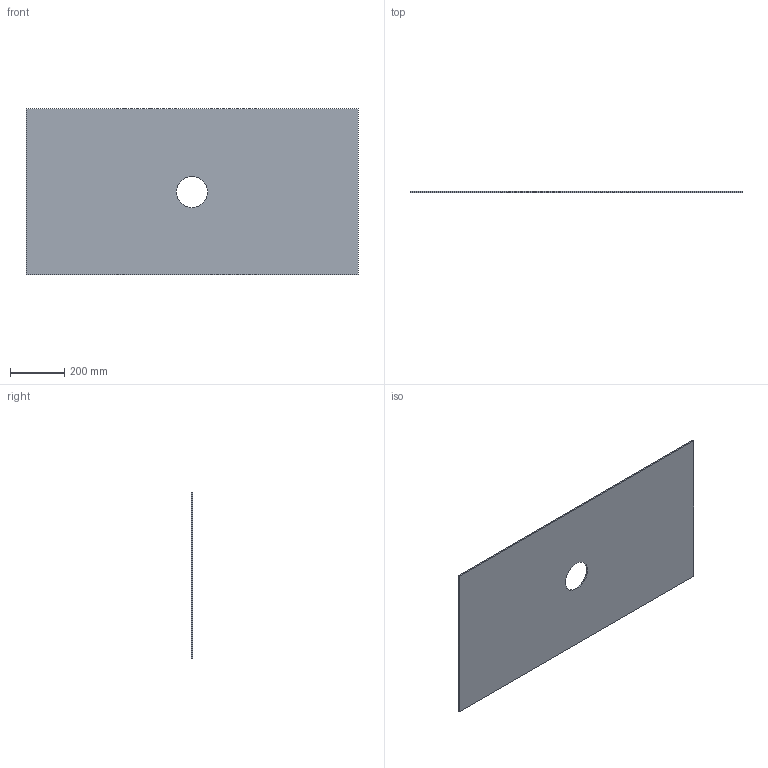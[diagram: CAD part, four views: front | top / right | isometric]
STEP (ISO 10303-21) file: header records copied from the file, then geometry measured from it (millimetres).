
FILE_DESCRIPTION(('STEP AP242 Edition 2','STEP AP242 Edition 2''CAx-IF Rec.Pracs.---Representation and Presentation of Product Manufacturing Information (PMI)---4.0---2014-10-13','STEP AP242 Edition 2''CAx-IF Rec.Pracs.---Representation and Presentation of Product Manufacturing Information (PMI)---4.0---2014-10-13''CAx-IF Rec.Pracs.---3D Tessellated Geometry---0.4---2014-09-14','STEP AP242 Edition 2''CAx-IF Rec.Pracs.---Representation and Presentation of Product Manufacturing Information (PMI)---4.0---2014-10-13''CAx-IF Rec.Pracs.---3D Tessellated Geometry---0.4---2014-09-14''2;1','STEP AP242 Edition 2''CAx-IF Rec.Pracs.---Representation and Presentation of Product Manufacturing Information (PMI)---4.0---2014-10-13''CAx-IF Rec.Pracs.---3D Tessellated Geometry---0.4---2014-09-14''2;1''CAx-IF Rec.Pracs.---User Defined Attributes---1.5---2016-08-15'),'2;1');
FILE_NAME('/vol/tmp/translate-2016734348789797861/Part Studio 1 - Part 18.step','2026-03-05T22:36:48',(''),(''),'ST-DEVELOPER v20','ONSHAPE BY PTC INC, 1.211',' ');
FILE_SCHEMA(('AP242_MANAGED_MODEL_BASED_3D_ENGINEERING_MIM_LF { 1 0 10303 442 3 1 4 }'));
Length unit declared in the file: metre
Products named in the file (1): Part 18
Bounding box: 1219.2 x 5 x 609.6 mm (x, y, z)
Volume: 3664817.5 mm3; surface area: 1486010.4 mm2
Topology: 1 solids, 1 shells, 7 faces, 16 edges, 11 vertices
Faces by surface type: plane 6, cylinder 1
Full cylindrical faces by diameter (mm): 114.3 x1
Entity records: 212 total; most frequent: DIRECTION 32, CARTESIAN_POINT 32, ORIENTED_EDGE 28, EDGE_CURVE 14, LINE 12, VECTOR 12, VERTEX_POINT 10, EDGE_LOOP 10
